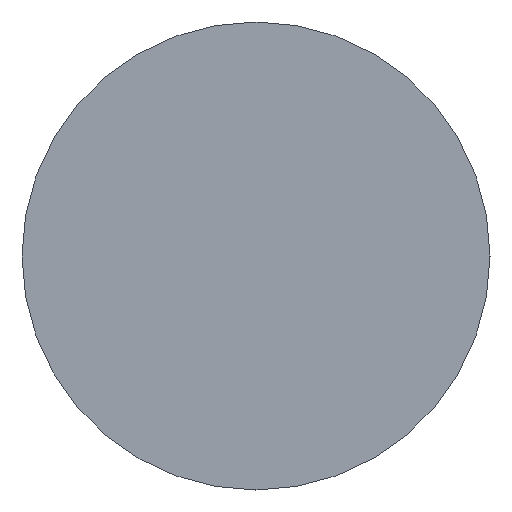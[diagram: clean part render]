
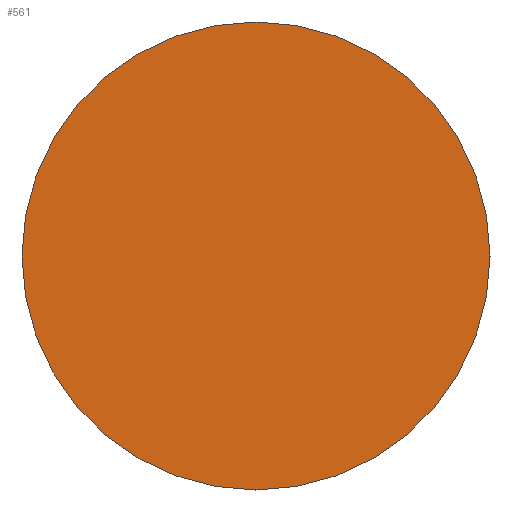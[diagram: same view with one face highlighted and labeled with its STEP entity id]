
A CAD part, left-side view. The second image highlights one B-rep face of the part: STEP entity #561.
In plain terms, the highlighted planar face has unit normal (-1, 0, 0).
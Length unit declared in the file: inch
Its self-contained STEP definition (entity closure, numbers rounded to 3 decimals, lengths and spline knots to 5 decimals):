
#12 = CARTESIAN_POINT ( 'NONE',  ( -4., 0., 0. ) ) ;
#101 = DIRECTION ( 'NONE',  ( 0., 0., 1. ) ) ;
#110 = ORIENTED_EDGE ( 'NONE', *, *, #188, .T. ) ;
#117 = VERTEX_POINT ( 'NONE', #378 ) ;
#152 = PLANE ( 'NONE',  #153 ) ;
#153 = AXIS2_PLACEMENT_3D ( 'NONE', #392, #586, #346 ) ;
#188 = EDGE_CURVE ( 'NONE', #117, #396, #325, .T. ) ;
#199 = DIRECTION ( 'NONE',  ( -1., 0., 0. ) ) ;
#318 = CARTESIAN_POINT ( 'NONE',  ( -4., 0., 0. ) ) ;
#322 = DIRECTION ( 'NONE',  ( 0., 0., 1. ) ) ;
#325 = CIRCLE ( 'NONE', #616, 0.125 ) ;
#346 = DIRECTION ( 'NONE',  ( 0., 0., -1. ) ) ;
#378 = CARTESIAN_POINT ( 'NONE',  ( -4., 0., -0.125 ) ) ;
#392 = CARTESIAN_POINT ( 'NONE',  ( -4., 0.125, 0. ) ) ;
#396 = VERTEX_POINT ( 'NONE', #480 ) ;
#406 = AXIS2_PLACEMENT_3D ( 'NONE', #318, #503, #322 ) ;
#480 = CARTESIAN_POINT ( 'NONE',  ( -4., 0., 0.125 ) ) ;
#493 = EDGE_LOOP ( 'NONE', ( #495, #110 ) ) ;
#495 = ORIENTED_EDGE ( 'NONE', *, *, #614, .T. ) ;
#503 = DIRECTION ( 'NONE',  ( -1., 0., 0. ) ) ;
#515 = CIRCLE ( 'NONE', #406, 0.125 ) ;
#561 = ADVANCED_FACE ( 'NONE', ( #582 ), #152, .F. ) ;
#582 = FACE_OUTER_BOUND ( 'NONE', #493, .T. ) ;
#586 = DIRECTION ( 'NONE',  ( 1., 0., 0. ) ) ;
#614 = EDGE_CURVE ( 'NONE', #396, #117, #515, .T. ) ;
#616 = AXIS2_PLACEMENT_3D ( 'NONE', #12, #199, #101 ) ;
